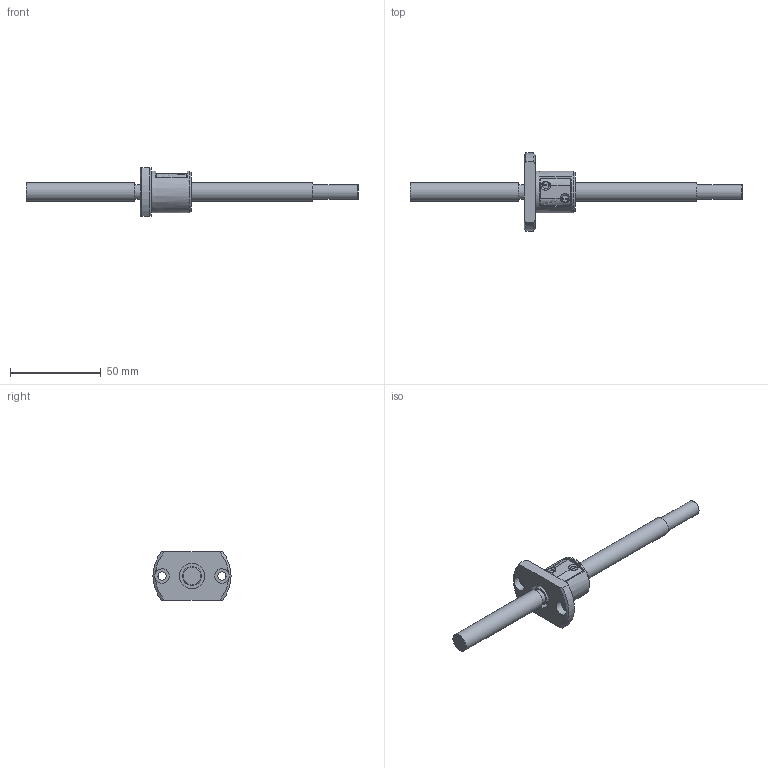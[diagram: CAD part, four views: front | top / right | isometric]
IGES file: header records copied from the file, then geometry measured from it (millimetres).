
Start section: Data from Parasolid IGES Translator 26.0.171, Copyright(c) 2006 Siemens PLM Software. All Rights Reserved.
Global section: file name: MBF1002-3.7RRGT+183LC3A(0).igs; native system: By Siemens PLM Incorporated; preprocessor: XPlus GENERIC/IGES 26.0.171; author: Noname; organization: Noname; date: 20240715.080322; units: millimetre
Bounding box: 183 x 43 x 27 mm (x, y, z)
Surface area: 11386.6 mm2 (no closed solid volume)
Topology: 0 solids, 0 shells, 67 faces, 328 edges, 308 vertices
Faces by surface type: extrusion 34, revolution 33
